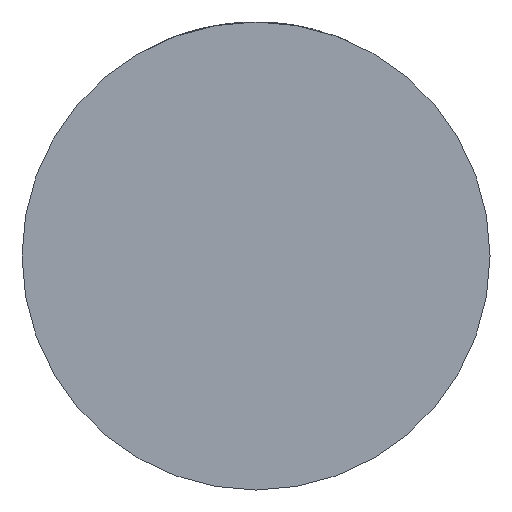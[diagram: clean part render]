
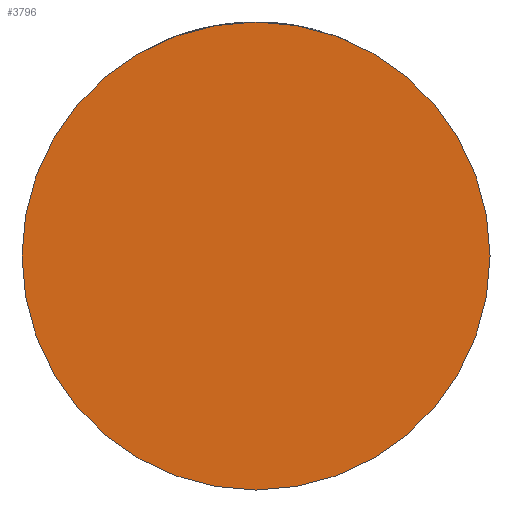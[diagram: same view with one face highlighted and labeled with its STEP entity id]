
A CAD part, front view. The second image highlights one B-rep face of the part: STEP entity #3796.
In plain terms, the highlighted planar face has unit normal (0, -1, 0).
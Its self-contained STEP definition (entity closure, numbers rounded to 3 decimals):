
#95 = PLANE ( 'NONE',  #1810 ) ;
#962 = CIRCLE ( 'NONE', #3321, 32. ) ;
#1171 = DIRECTION ( 'NONE',  ( 0., -1., 0. ) ) ;
#1369 = CARTESIAN_POINT ( 'NONE',  ( 0., -25., 0. ) ) ;
#1408 = ORIENTED_EDGE ( 'NONE', *, *, #1847, .T. ) ;
#1447 = VERTEX_POINT ( 'NONE', #2006 ) ;
#1810 = AXIS2_PLACEMENT_3D ( 'NONE', #1369, #2828, #4166 ) ;
#1847 = EDGE_CURVE ( 'NONE', #3668, #1447, #962, .T. ) ;
#1894 = AXIS2_PLACEMENT_3D ( 'NONE', #3528, #1171, #2814 ) ;
#2006 = CARTESIAN_POINT ( 'NONE',  ( 32., -25., 0. ) ) ;
#2215 = EDGE_LOOP ( 'NONE', ( #1408, #2916 ) ) ;
#2219 = CARTESIAN_POINT ( 'NONE',  ( 0., -25., 0. ) ) ;
#2426 = FACE_OUTER_BOUND ( 'NONE', #2215, .T. ) ;
#2814 = DIRECTION ( 'NONE',  ( 1., 0., 0. ) ) ;
#2824 = CIRCLE ( 'NONE', #1894, 32. ) ;
#2828 = DIRECTION ( 'NONE',  ( 0., -1., 0. ) ) ;
#2916 = ORIENTED_EDGE ( 'NONE', *, *, #4135, .T. ) ;
#3204 = DIRECTION ( 'NONE',  ( 1., 0., 0. ) ) ;
#3321 = AXIS2_PLACEMENT_3D ( 'NONE', #2219, #4301, #3204 ) ;
#3472 = CARTESIAN_POINT ( 'NONE',  ( -32., -25., 0. ) ) ;
#3528 = CARTESIAN_POINT ( 'NONE',  ( 0., -25., 0. ) ) ;
#3668 = VERTEX_POINT ( 'NONE', #3472 ) ;
#3796 = ADVANCED_FACE ( 'NONE', ( #2426 ), #95, .T. ) ;
#4135 = EDGE_CURVE ( 'NONE', #1447, #3668, #2824, .T. ) ;
#4166 = DIRECTION ( 'NONE',  ( 1., 0., 0. ) ) ;
#4301 = DIRECTION ( 'NONE',  ( 0., -1., 0. ) ) ;
